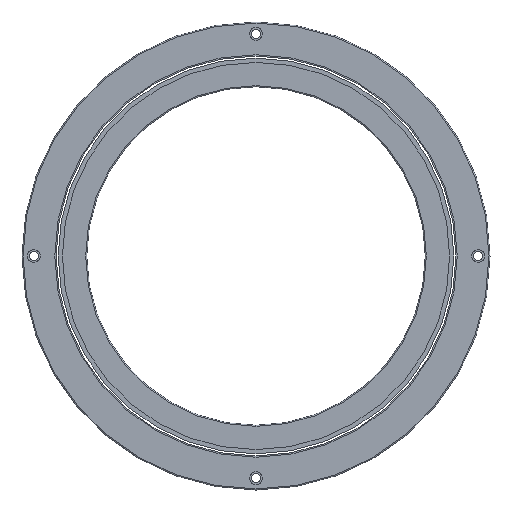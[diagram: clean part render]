
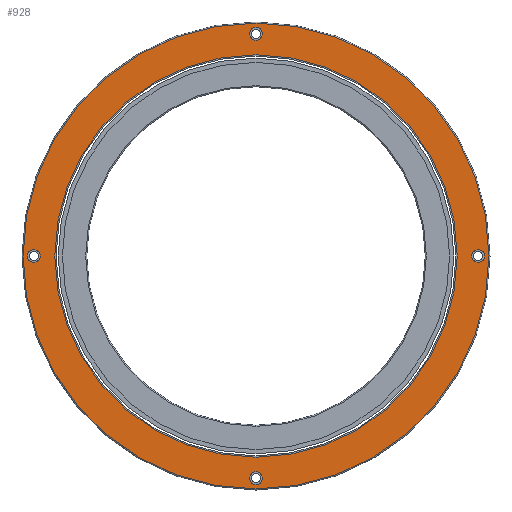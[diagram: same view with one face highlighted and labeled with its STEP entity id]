
A CAD part, front view. The second image highlights one B-rep face of the part: STEP entity #928.
In plain terms, the highlighted planar face has unit normal (0, -1, 0).
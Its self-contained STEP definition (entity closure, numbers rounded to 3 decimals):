
#43=CARTESIAN_POINT('',(0.,-4.5,0.));
#44=DIRECTION('',(0.,-1.,0.));
#45=DIRECTION('',(-1.,0.,0.));
#46=AXIS2_PLACEMENT_3D('',#43,#44,#45);
#48=CARTESIAN_POINT('',(0.,-4.5,0.));
#49=DIRECTION('',(0.,1.,0.));
#50=DIRECTION('',(-1.,0.,0.));
#51=AXIS2_PLACEMENT_3D('',#48,#49,#50);
#53=CARTESIAN_POINT('',(-105.,-4.5,0.));
#54=DIRECTION('',(0.,1.,0.));
#55=DIRECTION('',(1.,0.,0.));
#56=AXIS2_PLACEMENT_3D('',#53,#54,#55);
#58=CARTESIAN_POINT('',(-105.,-4.5,0.));
#59=DIRECTION('',(0.,1.,0.));
#60=DIRECTION('',(-1.,0.,0.));
#61=AXIS2_PLACEMENT_3D('',#58,#59,#60);
#63=CARTESIAN_POINT('',(0.,-4.5,105.));
#64=DIRECTION('',(0.,1.,0.));
#65=DIRECTION('',(0.,0.,-1.));
#66=AXIS2_PLACEMENT_3D('',#63,#64,#65);
#68=CARTESIAN_POINT('',(0.,-4.5,105.));
#69=DIRECTION('',(0.,1.,0.));
#70=DIRECTION('',(0.,0.,1.));
#71=AXIS2_PLACEMENT_3D('',#68,#69,#70);
#73=CARTESIAN_POINT('',(105.,-4.5,0.));
#74=DIRECTION('',(0.,1.,0.));
#75=DIRECTION('',(-1.,0.,0.));
#76=AXIS2_PLACEMENT_3D('',#73,#74,#75);
#78=CARTESIAN_POINT('',(105.,-4.5,0.));
#79=DIRECTION('',(0.,1.,0.));
#80=DIRECTION('',(1.,0.,0.));
#81=AXIS2_PLACEMENT_3D('',#78,#79,#80);
#83=CARTESIAN_POINT('',(0.,-4.5,-105.));
#84=DIRECTION('',(0.,1.,0.));
#85=DIRECTION('',(0.,0.,1.));
#86=AXIS2_PLACEMENT_3D('',#83,#84,#85);
#88=CARTESIAN_POINT('',(0.,-4.5,-105.));
#89=DIRECTION('',(0.,1.,0.));
#90=DIRECTION('',(0.,0.,-1.));
#91=AXIS2_PLACEMENT_3D('',#88,#89,#90);
#93=CARTESIAN_POINT('',(0.,-4.5,0.));
#94=DIRECTION('',(0.,1.,0.));
#95=DIRECTION('',(-1.,0.,0.));
#96=AXIS2_PLACEMENT_3D('',#93,#94,#95);
#98=CARTESIAN_POINT('',(0.,-4.5,0.));
#99=DIRECTION('',(0.,1.,0.));
#100=DIRECTION('',(1.,0.,0.));
#101=AXIS2_PLACEMENT_3D('',#98,#99,#100);
#751=CARTESIAN_POINT('',(-102.,-4.5,0.));
#752=VERTEX_POINT('',#751);
#753=CARTESIAN_POINT('',(-108.,-4.5,0.));
#754=VERTEX_POINT('',#753);
#763=CARTESIAN_POINT('',(0.,-4.5,102.));
#764=VERTEX_POINT('',#763);
#765=CARTESIAN_POINT('',(0.,-4.5,108.));
#766=VERTEX_POINT('',#765);
#775=CARTESIAN_POINT('',(102.,-4.5,0.));
#776=VERTEX_POINT('',#775);
#777=CARTESIAN_POINT('',(108.,-4.5,0.));
#778=VERTEX_POINT('',#777);
#787=CARTESIAN_POINT('',(0.,-4.5,-102.));
#788=VERTEX_POINT('',#787);
#789=CARTESIAN_POINT('',(0.,-4.5,-108.));
#790=VERTEX_POINT('',#789);
#808=CARTESIAN_POINT('',(-95.1,-4.5,0.));
#810=VERTEX_POINT('',#808);
#812=CARTESIAN_POINT('',(95.1,-4.5,0.));
#814=VERTEX_POINT('',#812);
#827=CARTESIAN_POINT('',(-110.1,-4.5,0.));
#828=CARTESIAN_POINT('',(110.1,-4.5,0.));
#829=VERTEX_POINT('',#827);
#830=VERTEX_POINT('',#828);
#889=CARTESIAN_POINT('',(0.,-4.5,0.));
#890=DIRECTION('',(0.,1.,0.));
#891=DIRECTION('',(1.,0.,0.));
#892=AXIS2_PLACEMENT_3D('',#889,#890,#891);
#893=PLANE('',#892);
#895=ORIENTED_EDGE('',*,*,#894,.T.);
#897=ORIENTED_EDGE('',*,*,#896,.T.);
#898=EDGE_LOOP('',(#895,#897));
#899=FACE_OUTER_BOUND('',#898,.F.);
#900=ORIENTED_EDGE('',*,*,#868,.F.);
#901=ORIENTED_EDGE('',*,*,#884,.F.);
#902=EDGE_LOOP('',(#900,#901));
#903=FACE_BOUND('',#902,.F.);
#905=ORIENTED_EDGE('',*,*,#904,.F.);
#907=ORIENTED_EDGE('',*,*,#906,.F.);
#908=EDGE_LOOP('',(#905,#907));
#909=FACE_BOUND('',#908,.F.);
#911=ORIENTED_EDGE('',*,*,#910,.F.);
#913=ORIENTED_EDGE('',*,*,#912,.F.);
#914=EDGE_LOOP('',(#911,#913));
#915=FACE_BOUND('',#914,.F.);
#917=ORIENTED_EDGE('',*,*,#916,.F.);
#919=ORIENTED_EDGE('',*,*,#918,.F.);
#920=EDGE_LOOP('',(#917,#919));
#921=FACE_BOUND('',#920,.F.);
#923=ORIENTED_EDGE('',*,*,#922,.T.);
#925=ORIENTED_EDGE('',*,*,#924,.F.);
#926=EDGE_LOOP('',(#923,#925));
#927=FACE_BOUND('',#926,.F.);
#47=CIRCLE('',#46,95.1);
#52=CIRCLE('',#51,95.1);
#57=CIRCLE('',#56,3.);
#62=CIRCLE('',#61,3.);
#67=CIRCLE('',#66,3.);
#72=CIRCLE('',#71,3.);
#77=CIRCLE('',#76,3.);
#82=CIRCLE('',#81,3.);
#87=CIRCLE('',#86,3.);
#92=CIRCLE('',#91,3.);
#97=CIRCLE('',#96,110.1);
#102=CIRCLE('',#101,110.1);
#868=EDGE_CURVE('',#752,#754,#57,.T.);
#884=EDGE_CURVE('',#754,#752,#62,.T.);
#894=EDGE_CURVE('',#829,#830,#97,.T.);
#896=EDGE_CURVE('',#830,#829,#102,.T.);
#904=EDGE_CURVE('',#764,#766,#67,.T.);
#906=EDGE_CURVE('',#766,#764,#72,.T.);
#910=EDGE_CURVE('',#776,#778,#77,.T.);
#912=EDGE_CURVE('',#778,#776,#82,.T.);
#916=EDGE_CURVE('',#788,#790,#87,.T.);
#918=EDGE_CURVE('',#790,#788,#92,.T.);
#922=EDGE_CURVE('',#810,#814,#47,.T.);
#924=EDGE_CURVE('',#810,#814,#52,.T.);
#928=ADVANCED_FACE('',(#899,#903,#909,#915,#921,#927),#893,.F.);
